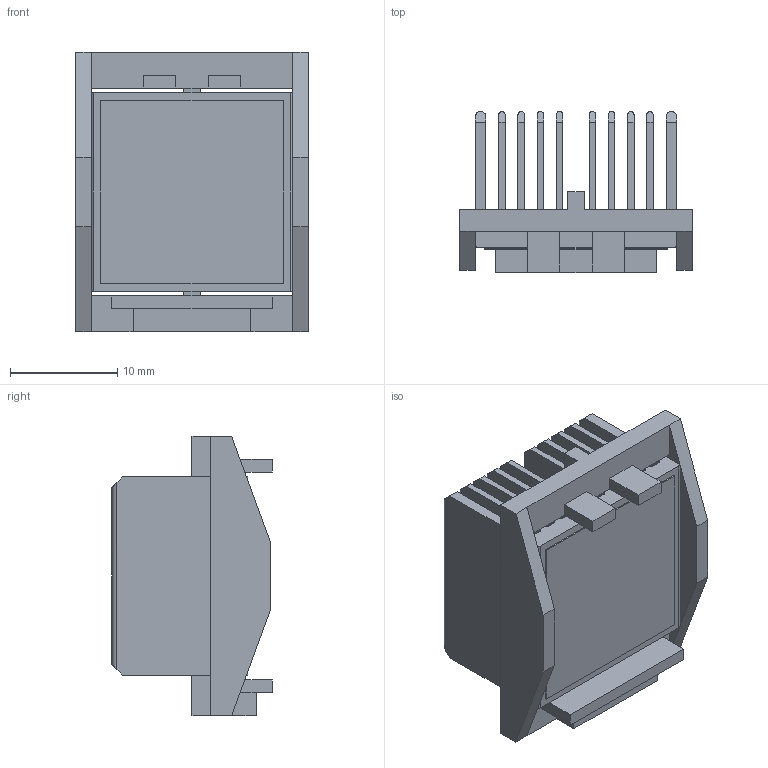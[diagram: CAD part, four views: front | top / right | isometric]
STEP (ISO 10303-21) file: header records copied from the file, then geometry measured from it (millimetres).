
FILE_DESCRIPTION (( 'STEP AP214' ), '1' );
FILE_NAME ('INL19001-13-1.7Y.STEP', '2023-02-20T23:58:17', ( '' ), ( '' ), 'SwSTEP 2.0', 'SolidWorks 2020', '' );
FILE_SCHEMA (( 'AUTOMOTIVE_DESIGN' ));
Length unit declared in the file: millimetre
Products named in the file (1): INL19001-13-1.7Y
Bounding box: 21.7 x 15 x 26.1 mm (x, y, z)
Volume: 2820.6 mm3; surface area: 6858.7 mm2
Topology: 3 solids, 3 shells, 136 faces, 392 edges, 260 vertices
Faces by surface type: plane 106, cylinder 30
Entity records: 5956 total; most frequent: CARTESIAN_POINT 849, ORIENTED_EDGE 784, DIRECTION 686, EDGE_CURVE 392, VECTOR 332, LINE 332, VERTEX_POINT 260, AXIS2_PLACEMENT_3D 177
